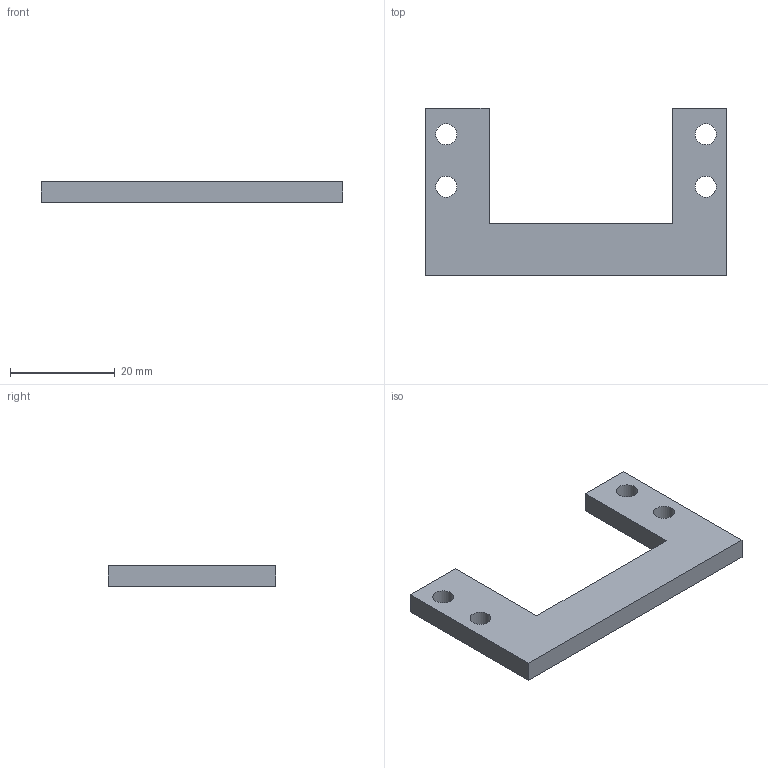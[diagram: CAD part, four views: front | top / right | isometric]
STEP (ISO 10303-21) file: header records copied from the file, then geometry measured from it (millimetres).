
FILE_DESCRIPTION(/* description */ ('STEP AP242','CAx-IF Rec.Pracs.---Representation and Presentation of Product Manufacturing Information (PMI)---4.0---2014-10-13','CAx-IF Rec.Pracs.---3D Tessellated Geometry---0.4---2014-09-14','2;1'),/* implementation_level */ '2;1');
FILE_NAME(/* name */ '65dac0f2f3c31e2e3b9e1f1a',/* time_stamp */ '2024-02-25T04:24:19Z',/* author */ (''),/* organization */ (''),/* preprocessor_version */ 'ST-DEVELOPER v19.4',/* originating_system */ ' ',/* authorisation */ ' ');
FILE_SCHEMA (('AP242_MANAGED_MODEL_BASED_3D_ENGINEERING_MIM_LF { 1 0 10303 442 1 1 4 }'));
Length unit declared in the file: metre
Products named in the file (1): Part 1
Bounding box: 57.5 x 32 x 4 mm (x, y, z)
Volume: 4078.9 mm3; surface area: 3132.5 mm2
Topology: 1 solids, 1 shells, 14 faces, 36 edges, 24 vertices
Faces by surface type: plane 10, cylinder 4
Full cylindrical faces by diameter (mm): 4 x4
Entity records: 446 total; most frequent: CARTESIAN_POINT 71, DIRECTION 70, ORIENTED_EDGE 64, EDGE_CURVE 32, EDGE_LOOP 26, FACE_BOUND 26, VERTEX_POINT 24, LINE 24
